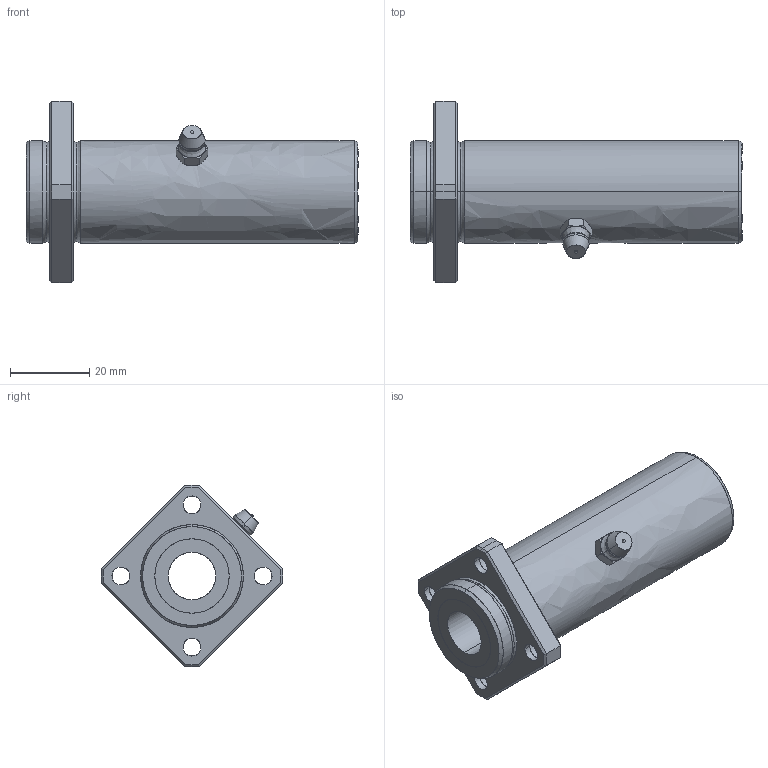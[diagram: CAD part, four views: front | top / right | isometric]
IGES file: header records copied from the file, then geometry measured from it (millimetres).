
Global section: file name: No Iges File Name specified; native system: AutoDesk Inventor R10; preprocessor: AutoDesk Inventor Iges Exporter R10; author: No Author specified; organization: No Organization specified; date: 20101211.163608; units: millimetre
Bounding box: 84 x 45.86 x 46 mm (x, y, z)
Surface area: 13043.9 mm2 (no closed solid volume)
Topology: 0 solids, 0 shells, 116 faces, 709 edges, 707 vertices
Faces by surface type: bspline 116
